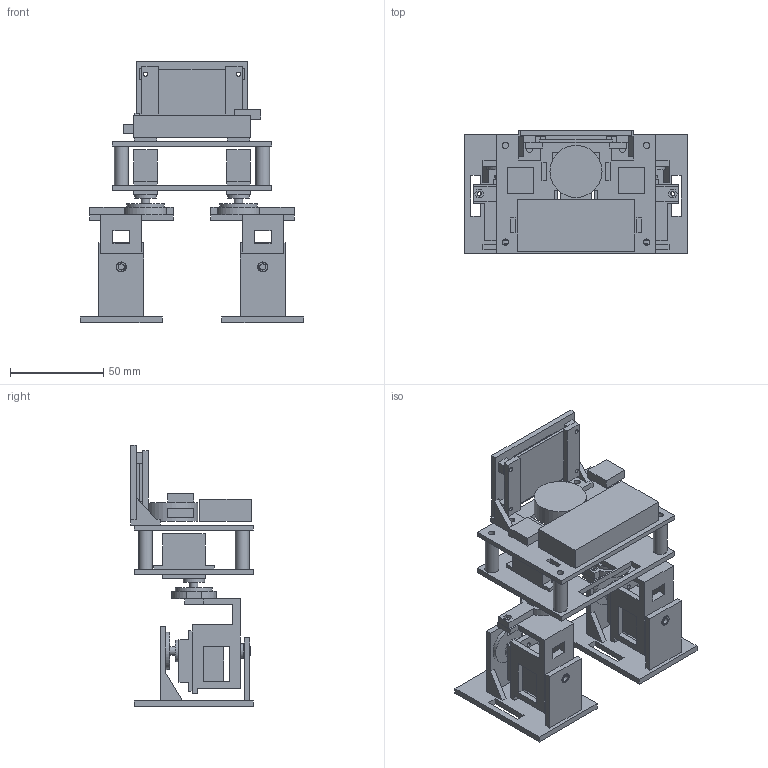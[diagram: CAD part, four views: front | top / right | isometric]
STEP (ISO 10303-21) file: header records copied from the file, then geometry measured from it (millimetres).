
FILE_DESCRIPTION(('Open CASCADE Model'),'2;1');
FILE_NAME('Open CASCADE Shape Model','2026-10-26T16:15:21',('Author'),( 'Open CASCADE'),'Open CASCADE STEP processor 7.8','Open CASCADE 7.8' ,'Unknown');
FILE_SCHEMA(('AUTOMOTIVE_DESIGN { 1 0 10303 214 1 1 1 1 }'));
Length unit declared in the file: millimetre
Products named in the file (28): desktop_robot_A1; chassis; electronics_deck; leg_-1; hip_adapter_-1; foot_-1; pivot_bushing_-1; leg_1; hip_adapter_1; foot_1; pivot_bushing_1; screen_clamp_-25; screen_clamp_25; screen_frame; screen_pcb; screen_glass; hip_servo_-1; hip_horn_-1; ankle_servo_-1; ankle_horn_-1; hip_servo_1; hip_horn_1; ankle_servo_1; ankle_horn_1; esp32_envelope; speaker_envelope; mic_envelope; amp_envelope
Assembly tree (27 placements, depth 2):
  desktop_robot_A1
    chassis
    electronics_deck
    leg_-1
    hip_adapter_-1
    foot_-1
    pivot_bushing_-1
    leg_1
    hip_adapter_1
    foot_1
    pivot_bushing_1
    screen_clamp_-25
    screen_clamp_25
    screen_frame
    screen_pcb
    screen_glass
    hip_servo_-1
    hip_horn_-1
    ankle_servo_-1
    ankle_horn_-1
    hip_servo_1
    hip_horn_1
    ankle_servo_1
    ankle_horn_1
    esp32_envelope
    speaker_envelope
    mic_envelope
    amp_envelope
Bounding box: 120 x 66 x 140.6 mm (x, y, z)
Volume: 149110.5 mm3; surface area: 99279.8 mm2
Topology: 27 solids, 27 shells, 575 faces, 1479 edges, 984 vertices
Faces by surface type: plane 474, cylinder 101
Full cylindrical faces by diameter (mm): 2.2 x24, 2.3 x28, 3.3 x2, 3.4 x14, 4.4 x4, 5 x2, 5.4 x2, 6.8 x6, 7.4 x4, 8 x2, 11.6 x4, 20 x4, 28 x1
Entity records: 37031 total; most frequent: CARTESIAN_POINT 6636, DIRECTION 5243, LINE 3433, VECTOR 3433, ORIENTED_EDGE 2958, PCURVE 2958, DEFINITIONAL_REPRESENTATION 2958, EDGE_CURVE 1479
